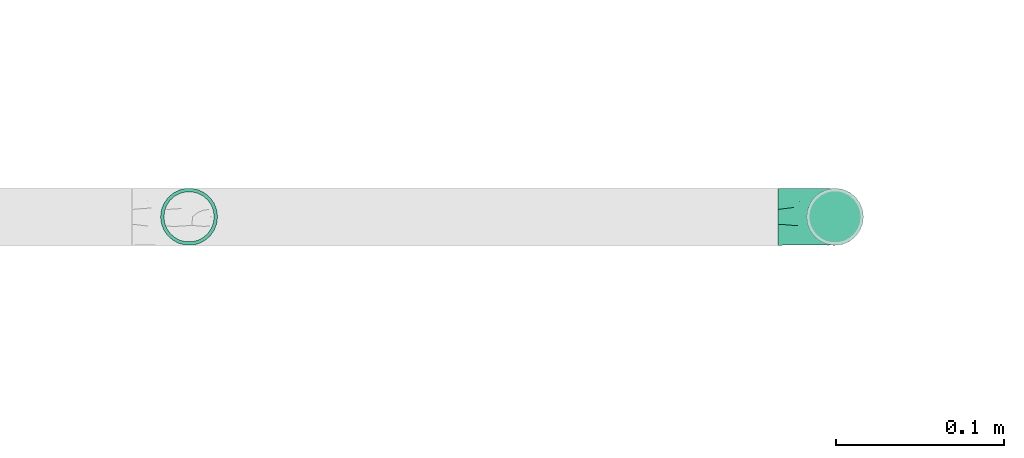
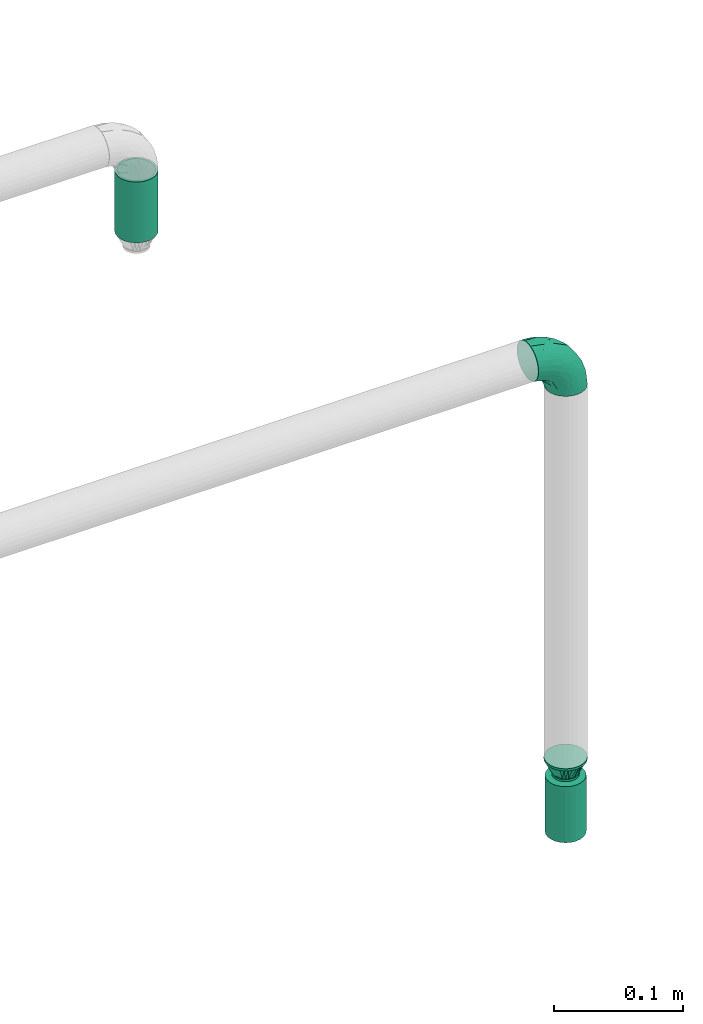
# One storey, part 27 of 45: 2 flow fittings, 1 flow segment, 1 flow terminal.
"""IFC2X3 building model written with IfcOpenShell, lengths in millimetres."""

from ifc_helpers import new_model, entity, si_unit, converted_unit, derived_unit, direction, frame, origin_with_axes, origin_2d_with_axis, place, context, subcontext, project, spatial, hollow_circle, extrude, open_shell, surface_model, source, transform, mapped, type_object, element, save


model = new_model("IFC2X3")

# Units and contexts
model_context = context("Model", 3, precision=0.01, world=frame((0.0, 4.29681676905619e-09, 0.0)), true_north=direction((4.01073788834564e-13, 1.0)))
plan_context = context("Plan", 3, precision=0.01, world=frame((0.0, 4.29681676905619e-09, 0.0)), true_north=direction((4.01073788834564e-13, 1.0)))
body_context = subcontext(model_context, "Body", "Model", "MODEL_VIEW")
ifc_project = project(units=[converted_unit("PLANEANGLEUNIT", "DEGREE", entity("IfcPositiveLengthMeasure", 0.0174532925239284), si_unit("PLANEANGLEUNIT", "RADIAN"), dimensions=[0, 0, 0, 0, 0, 0, 0]), si_unit("AREAUNIT", "SQUARE_METRE"), si_unit("LENGTHUNIT", "METRE", prefix="MILLI"), si_unit("MASSUNIT", "GRAM", prefix="KILO"), si_unit("POWERUNIT", "WATT"), si_unit("PRESSUREUNIT", "PASCAL", prefix="KILO"), si_unit("FORCEUNIT", "NEWTON", prefix="KILO"), si_unit("ELECTRICVOLTAGEUNIT", "VOLT"), si_unit("ELECTRICCURRENTUNIT", "AMPERE"), si_unit("THERMODYNAMICTEMPERATUREUNIT", "DEGREE_CELSIUS"), si_unit("TIMEUNIT", "SECOND"), si_unit("VOLUMEUNIT", "CUBIC_METRE"), derived_unit("LINEARVELOCITYUNIT", [(si_unit("LENGTHUNIT", "METRE"), 1), (si_unit("TIMEUNIT", "SECOND"), -1)]), derived_unit("VOLUMETRICFLOWRATEUNIT", [(si_unit("VOLUMEUNIT", "CUBIC_METRE"), 1), (si_unit("TIMEUNIT", "SECOND"), -1)]), derived_unit("THERMALTRANSMITTANCEUNIT", [(si_unit("POWERUNIT", "WATT"), 1), (si_unit("THERMODYNAMICTEMPERATUREUNIT", "KELVIN"), -1), (si_unit("AREAUNIT", "SQUARE_METRE"), -1)]), derived_unit("SOUNDPRESSUREUNIT", [(si_unit("PRESSUREUNIT", "PASCAL"), 1)])], contexts=[model_context, plan_context])

# Site, building, storey
site_placement = place(None, frame((0.0, -4.29681676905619e-09, 0.0), z_axis=(0.0, 0.0, 1.0), x_axis=(1.0, 0.0, 0.0)))
site = spatial("IfcSite", under=ifc_project, at=site_placement, CompositionType="ELEMENT")
building_placement = place(site_placement, frame((0.0, 4.29681676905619e-09, 0.0), z_axis=(0.0, 0.0, 1.0), x_axis=(1.0, 0.0, 0.0)))
building = spatial("IfcBuilding", under=site, at=building_placement, Name="mc-building", CompositionType="ELEMENT")
storey_placement = place(building_placement, frame((0.0, 0.0, 210200.0), z_axis=(0.0, 0.0, 1.0), x_axis=(1.0, 0.0, 0.0)))
storey = spatial("IfcBuildingStorey", under=building, at=storey_placement, Name="Nivå F - 0,7 m", CompositionType="ELEMENT", Elevation=210200.0)

# Flow fittings
pipe_fitting_type_1 = type_object("IfcPipeFittingType", Name="magi_pipe_fe_elbow_short_001", PredefinedType="BEND")
shared_shape_1 = source(origin_with_axes(), body_context, "Body", "SurfaceModel", [
    surface_model("IfcShellBasedSurfaceModel", [(-33.8, -11.9501, -11.9501), (-33.8, -14.63583, -8.45), (-33.8, -8.45, -14.63583), (-33.8, 0.0, -16.9), (-33.8, -4.37404, -16.32415), (-33.8, -16.32415, -4.37404), (-33.8, -16.9, 0.0), (-33.8, 11.9501, 11.9501), (-33.8, 14.63583, 8.45), (-33.8, 8.45, 14.63583), (-33.8, -11.9501, 11.9501), (-33.8, -8.45, 14.63583), (-33.8, -14.63583, 8.45), (-33.8, -16.32415, 4.37404), (-33.8, -4.37404, 16.32415), (-33.8, 0.0, 16.9), (-33.8, 16.9, 0.0), (-33.8, 16.32415, -4.37404), (-33.8, 16.32415, 4.37404), (-33.8, 4.37404, -16.32415), (-33.8, 8.45, -14.63583), (-33.8, 14.63583, -8.45), (-33.8, 11.9501, -11.9501), (-33.8, 4.37404, 16.32415), (-4.37404, 33.8, -16.32415), (16.9, 33.8, 0.0), (0.0, 33.8, -16.9), (-16.32415, 33.8, -4.37404), (-8.45, 33.8, -14.63583), (-14.63583, 33.8, -8.45), (-11.9501, 33.8, -11.9501), (16.32415, 33.8, 4.37404), (8.45, 33.8, -14.63583), (14.63583, 33.8, -8.45), (11.9501, 33.8, -11.9501), (4.37404, 33.8, -16.32415), (16.32415, 33.8, -4.37404), (-16.32415, 33.8, 4.37404), (-4.37404, 33.8, 16.32415), (-14.63583, 33.8, 8.45), (-8.45, 33.8, 14.63583), (-11.9501, 33.8, 11.9501), (14.63583, 33.8, 8.45), (8.45, 33.8, 14.63583), (11.9501, 33.8, 11.9501), (0.0, 33.8, 16.9), (4.37404, 33.8, 16.32415), (-16.9, 33.8, 0.0), (-24.79389, -13.12945, 9.48721), (-22.19287, -9.75018, 12.59315), (-24.09897, -14.97035, 0.0), (-14.93934, -10.76256, 8.5297), (-22.46095, -14.75051, 5.27077), (14.75051, 22.46094, 5.27077), (11.9251, 13.23888, 4.33236), (13.04069, 14.39795, 0.0), (7.71387, 13.68847, 11.55891), (9.75018, 22.19287, 12.59315), (4.10169, 13.0571, 14.04018), (-24.84007, -6.39063, 15.2048), (-25.81779, -2.23879, 16.61097), (-23.66549, 2.59054, 16.87119), (-26.50418, 14.06512, 11.08152), (-24.21253, 17.66365, 7.72657), (-29.58514, 15.86957, 7.00283), (-6.17382, -7.5455, 0.0), (-13.23888, -11.9251, 4.33236), (-14.39795, -13.04069, 0.0), (-17.81434, 18.87373, 11.97104), (-6.30846, 29.15138, 15.82987), (-2.31622, 25.28002, 16.85849), (-29.23923, 10.23435, 13.77053), (-1.45439, -2.85688, 7.61475), (-0.28326, 0.34872, 10.09509), (-5.74484, -4.04709, 10.4122), (-4.41137, 11.31918, 16.59407), (-8.39727, 3.10034, 15.7812), (-1.72649, 9.1306, 15.53089), (-17.39909, 24.75344, 7.64977), (-26.19233, 20.0512, 0.0), (-28.14518, 17.29657, 4.25857), (-26.05147, 6.6281, 15.96447), (-5.87354, 16.61944, 16.86968), (-12.51807, 12.51807, 16.48937), (-10.06312, 7.38516, 16.81295), (-3.01882, 3.01882, 13.81718), (-13.0571, -4.10169, 14.04018), (-16.82553, -0.15166, 16.38038), (10.76256, 14.93934, 8.5297), (13.12945, 24.79389, 9.48721), (6.39063, 24.84007, 15.2048), (2.23879, 25.81779, 16.61097), (-13.68847, -7.71387, 11.55891), (14.97035, 24.09897, 0.0), (-7.30894, 22.89991, 16.09489), (-10.67958, 26.17414, 14.008), (-12.78295, 18.26924, 15.06066), (-13.88562, 22.45231, 12.93244), (-18.04944, 15.16501, 14.04434), (-23.11658, 20.08178, 4.02986), (-21.84989, 21.84989, 0.0), (-18.55817, 25.48277, 3.93065), (-13.95142, 26.94732, 11.03289), (-18.57098, 7.23906, 16.59756), (-16.58335, 4.14122, 16.89279), (-17.96666, 11.46709, 15.63151), (-9.84453, 17.54304, 16.18938), (0.15166, 16.82553, 16.38038), (-23.27207, 11.47201, 14.23154), (3.84842, 5.86994, 10.70473), (-8.0212, -7.54413, 7.93275), (1.00345, -2.19508, 4.57414), (5.13203, 3.01004, 5.90201), (5.24161, 1.7543, 2.53265), (8.70457, 7.04947, 3.99182), (-20.0512, 26.19233, 0.0), (8.4852, 8.76699, 7.09296), (-4.55488, -6.72064, 4.90681), (2.05031, -2.05031, 0.0), (7.5455, 6.17382, 0.0), (-26.75399, 2.1369, -16.845), (-14.61995, 24.73803, -11.27736), (-28.45274, -13.45335, -9.81895), (-26.00469, 6.63555, -15.96645), (-23.06726, 20.04573, -4.26202), (-13.80647, -4.26506, -14.17873), (-14.67501, -0.21081, -16.07388), (-6.7902, -0.2828, -13.8478), (-24.53586, 11.08096, -14.13417), (-26.72048, 14.00837, -11.05776), (10.0967, 24.44989, -12.75976), (5.83237, 21.40218, -15.03047), (6.66249, 28.54238, -15.38093), (-20.38182, 15.48705, -12.74596), (12.53268, 21.23441, -9.15363), (12.54494, 15.67504, -5.54878), (9.7522, 12.89279, -8.66343), (-15.65186, 19.64213, -13.01327), (-12.03528, 20.66498, -14.67665), (-15.61907, 15.61906, -14.83879), (-25.56551, -15.26206, 0.0), (-24.65452, -15.12934, -5.50955), (13.45335, 28.45274, -9.81895), (15.12934, 24.65452, -5.50955), (-7.35442, -8.31014, -5.65563), (-15.67504, -12.54494, -5.54878), (-24.44989, -10.0967, -12.75976), (0.16522, 0.41303, -9.71728), (-5.70658, -5.33066, -8.89288), (-5.13869, -2.37198, -11.53565), (-21.23441, -12.53268, -9.15363), (0.71146, 7.93863, -14.09382), (0.21081, 14.67501, -16.07388), (3.49291, 14.42772, -14.76381), (-24.89911, -2.13088, -16.591), (-28.54238, -6.66249, -15.38093), (-18.44386, -7.71663, -13.26957), (2.13088, 24.89911, -16.591), (-28.64342, 17.44413, -2.89318), (1.70017, -1.28722, -5.09504), (-16.57067, 26.81947, -7.36596), (-17.69055, 27.4263, -3.76405), (-12.89279, -9.7522, -8.66343), (-5.96611, 5.96611, -15.95814), (-20.53709, 20.09345, -8.28985), (-2.1369, 26.75399, -16.845), (-6.89872, 24.58781, -16.02578), (-10.60739, 26.53157, -13.98044), (-21.40218, -5.83237, -15.03047), (2.93192, 5.89627, -11.55917), (6.89393, 12.61842, -11.82233), (5.58056, 5.95325, -8.79455), (-3.99512, 18.61798, -16.89635), (8.31014, 7.35442, -5.65563), (-9.1383, 9.86148, -16.89041), (-9.99983, 16.02119, -16.39699), (-16.68576, 9.78031, -16.34199), (-27.01915, 16.61158, -7.12979), (15.26206, 25.56551, 0.0), (-18.61798, 3.99512, -16.89635), (-19.37495, 27.82495, 0.0), (-12.61842, -6.89393, -11.82233), (-18.84705, 19.14018, -10.96545)], [open_shell([[[0, 1, 2]], [[3, 4, 2]], [[5, 6, 1]], [[7, 8, 9]], [[10, 11, 12]], [[13, 12, 11]], [[14, 15, 11]], [[16, 17, 18]], [[3, 6, 19]], [[20, 19, 17]], [[20, 17, 21]], [[22, 20, 21]], [[17, 19, 6]], [[2, 1, 6]], [[2, 6, 3]], [[6, 18, 17]], [[23, 18, 6]], [[8, 18, 23]], [[8, 23, 9]], [[13, 23, 6]], [[23, 13, 11]], [[11, 15, 23]], [[24, 25, 26]], [[27, 24, 28]], [[29, 27, 28]], [[29, 28, 30]], [[31, 25, 24]], [[32, 33, 34]], [[32, 35, 26]], [[33, 25, 36]], [[33, 32, 26]], [[25, 33, 26]], [[24, 27, 37]], [[31, 24, 37]], [[38, 37, 39]], [[40, 38, 39]], [[40, 39, 41]], [[31, 37, 38]], [[42, 43, 44]], [[43, 42, 31]], [[43, 45, 46]], [[43, 31, 38]], [[38, 45, 43]], [[37, 27, 47]], [[10, 48, 49]], [[13, 6, 50]], [[51, 48, 52]], [[53, 54, 55]], [[48, 10, 12]], [[13, 52, 12]], [[56, 57, 58]], [[49, 11, 10]], [[49, 59, 11]], [[15, 60, 61]], [[62, 63, 64]], [[65, 66, 67]], [[57, 44, 43]], [[62, 68, 63]], [[38, 69, 70]], [[9, 71, 7]], [[14, 60, 15]], [[72, 73, 74]], [[75, 76, 77]], [[7, 62, 8]], [[39, 37, 78]], [[79, 16, 80]], [[64, 18, 8]], [[15, 61, 23]], [[23, 81, 9]], [[82, 83, 84]], [[74, 85, 86]], [[59, 86, 87]], [[88, 89, 57]], [[90, 43, 46]], [[42, 53, 31]], [[46, 45, 91]], [[54, 53, 88]], [[42, 89, 53]], [[92, 86, 49]], [[89, 42, 44]], [[11, 59, 14]], [[53, 55, 93]], [[93, 31, 53]], [[66, 52, 67]], [[94, 82, 70]], [[95, 96, 94]], [[97, 98, 96]], [[79, 99, 100]], [[40, 41, 95]], [[101, 100, 99]], [[68, 78, 63]], [[38, 40, 69]], [[16, 18, 80]], [[95, 94, 69]], [[78, 101, 99]], [[41, 102, 95]], [[70, 45, 38]], [[97, 95, 102]], [[13, 50, 52]], [[90, 57, 43]], [[57, 90, 58]], [[81, 23, 61]], [[103, 104, 84]], [[105, 81, 103]], [[41, 39, 102]], [[106, 96, 83]], [[94, 106, 82]], [[91, 70, 107]], [[71, 62, 7]], [[62, 108, 98]], [[86, 59, 49]], [[67, 52, 50]], [[60, 59, 87]], [[92, 49, 51]], [[86, 85, 76]], [[91, 90, 46]], [[25, 31, 93]], [[107, 77, 58]], [[107, 58, 90]], [[58, 85, 109]], [[110, 74, 92]], [[72, 74, 110]], [[66, 51, 52]], [[72, 111, 112]], [[113, 114, 112]], [[56, 88, 57]], [[52, 48, 12]], [[49, 48, 51]], [[57, 89, 44]], [[53, 89, 88]], [[103, 81, 61]], [[71, 81, 108]], [[18, 64, 80]], [[63, 78, 99]], [[47, 115, 101]], [[101, 115, 100]], [[39, 78, 102]], [[68, 102, 78]], [[97, 96, 95]], [[105, 98, 108]], [[103, 84, 83]], [[107, 70, 82]], [[76, 84, 87]], [[82, 84, 75]], [[70, 91, 45]], [[90, 91, 107]], [[59, 60, 14]], [[61, 60, 87]], [[73, 85, 74]], [[109, 112, 116]], [[103, 61, 104]], [[105, 103, 83]], [[96, 105, 83]], [[81, 105, 108]], [[96, 98, 105]], [[62, 98, 68]], [[61, 87, 104]], [[87, 84, 104]], [[86, 76, 87]], [[77, 76, 85]], [[58, 77, 85]], [[75, 77, 107]], [[82, 75, 107]], [[76, 75, 84]], [[81, 71, 9]], [[62, 71, 108]], [[95, 69, 40]], [[70, 69, 94]], [[62, 64, 8]], [[80, 63, 99]], [[63, 80, 64]], [[80, 99, 79]], [[66, 65, 117]], [[110, 66, 117]], [[112, 114, 116]], [[118, 117, 65]], [[110, 92, 51]], [[112, 111, 113]], [[119, 55, 54]], [[74, 86, 92]], [[58, 109, 56]], [[116, 56, 109]], [[66, 110, 51]], [[72, 110, 117]], [[111, 72, 117]], [[73, 112, 109]], [[117, 118, 111]], [[113, 111, 118]], [[118, 119, 113]], [[114, 119, 54]], [[119, 114, 113]], [[116, 54, 88]], [[54, 116, 114]], [[116, 88, 56]], [[112, 73, 72]], [[85, 73, 109]], [[78, 37, 101]], [[47, 101, 37]], [[102, 68, 97]], [[97, 68, 98]], [[82, 106, 83]], [[94, 96, 106]], [[19, 120, 3]], [[29, 30, 121]], [[0, 122, 1]], [[20, 123, 19]], [[100, 124, 79]], [[125, 126, 127]], [[128, 22, 129]], [[130, 131, 132]], [[128, 129, 133]], [[134, 135, 136]], [[137, 138, 139]], [[128, 20, 22]], [[67, 140, 141]], [[134, 142, 143]], [[141, 5, 1]], [[144, 65, 145]], [[146, 0, 2]], [[147, 148, 149]], [[145, 141, 150]], [[151, 152, 153]], [[154, 4, 3]], [[2, 155, 146]], [[150, 146, 156]], [[155, 2, 4]], [[143, 135, 134]], [[35, 157, 26]], [[16, 79, 158]], [[148, 159, 144]], [[160, 161, 27]], [[145, 162, 144]], [[163, 152, 151]], [[27, 29, 160]], [[121, 164, 160]], [[32, 34, 130]], [[26, 165, 24]], [[24, 165, 166]], [[142, 34, 33]], [[30, 28, 167]], [[124, 161, 164]], [[157, 35, 132]], [[155, 154, 168]], [[123, 20, 128]], [[169, 170, 171]], [[172, 157, 152]], [[24, 166, 28]], [[132, 35, 32]], [[142, 130, 34]], [[168, 154, 126]], [[136, 135, 173]], [[133, 137, 139]], [[22, 21, 129]], [[170, 131, 130]], [[33, 36, 143]], [[172, 174, 175]], [[176, 123, 128]], [[158, 177, 17]], [[135, 55, 119]], [[167, 28, 166]], [[175, 166, 172]], [[137, 167, 138]], [[122, 141, 1]], [[140, 6, 5]], [[36, 25, 178]], [[170, 130, 134]], [[152, 157, 131]], [[165, 157, 172]], [[153, 170, 151]], [[152, 163, 174]], [[168, 125, 156]], [[122, 146, 150]], [[120, 154, 3]], [[179, 174, 126]], [[179, 126, 154]], [[126, 163, 127]], [[162, 145, 150]], [[140, 5, 141]], [[36, 178, 143]], [[55, 143, 178]], [[177, 129, 21]], [[128, 133, 139]], [[176, 128, 139]], [[120, 123, 179]], [[121, 160, 29]], [[161, 100, 180]], [[166, 175, 138]], [[121, 30, 167]], [[161, 47, 27]], [[79, 124, 158]], [[124, 164, 177]], [[161, 124, 100]], [[136, 171, 170]], [[127, 163, 151]], [[147, 171, 159]], [[148, 144, 162]], [[127, 151, 169]], [[127, 181, 125]], [[129, 177, 164]], [[21, 17, 177]], [[159, 65, 144]], [[67, 141, 145]], [[143, 55, 135]], [[135, 119, 173]], [[123, 120, 19]], [[154, 120, 179]], [[157, 165, 26]], [[166, 165, 172]], [[172, 152, 174]], [[176, 139, 175]], [[126, 174, 163]], [[176, 174, 179]], [[174, 176, 175]], [[123, 176, 179]], [[150, 181, 162]], [[127, 149, 181]], [[181, 148, 162]], [[159, 148, 147]], [[171, 136, 173]], [[170, 134, 136]], [[159, 171, 173]], [[171, 147, 169]], [[169, 147, 149]], [[151, 170, 169]], [[164, 182, 129]], [[182, 121, 137]], [[181, 149, 148]], [[169, 149, 127]], [[182, 137, 133]], [[167, 137, 121]], [[166, 138, 167]], [[175, 139, 138]], [[129, 182, 133]], [[121, 182, 164]], [[161, 160, 164]], [[47, 161, 180]], [[177, 158, 124]], [[16, 158, 17]], [[130, 132, 32]], [[157, 132, 131]], [[143, 142, 33]], [[130, 142, 134]], [[154, 155, 4]], [[146, 155, 168]], [[146, 122, 0]], [[141, 122, 150]], [[152, 131, 153]], [[159, 119, 118]], [[67, 145, 65]], [[170, 153, 131]], [[119, 159, 173]], [[159, 118, 65]], [[156, 125, 181]], [[126, 125, 168]], [[150, 156, 181]], [[168, 156, 146]]])]),
])
flow_fitting_1_placement = place(storey_placement, frame((333602.59811, 466128.25463, 2980.04545999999), z_axis=(0.0, -1.0, 0.0), x_axis=(0.0, 0.0, 1.0)))
element("IfcFlowFitting", 1, at=flow_fitting_1_placement, inside=storey, type_object=pipe_fitting_type_1, Name="magi_pipe_fe_elbow_short_001", context=body_context, shape_type="MappedRepresentation", body=[
    mapped(shared_shape_1, transform((0.0, 0.0, 0.0), scale=1.0)),
])
pipe_fitting_type_2 = type_object("IfcPipeFittingType", Name="magi_pipe_fe_reducer_centric_short_001", PredefinedType="TRANSITION")
shared_shape_2 = source(origin_with_axes(), body_context, "Body", "SurfaceModel", [
    surface_model("IfcShellBasedSurfaceModel", [(-2.0, -7.56604, -7.56604), (-2.0, -10.33541, -2.76936), (-2.0, -5.35, -9.26647), (-2.0, 5.35, -9.26647), (-2.0, 10.33541, -2.76936), (-2.0, 7.56604, -7.56604), (12.4, 11.9501, 11.9501), (12.4, 0.0, 16.9), (12.4, 11.9501, -11.9501), (12.4, 16.9, 0.0), (0.0, -10.7, 0.0), (0.0, -5.35, 9.26647), (0.0, -5.35, -9.26647), (0.0, 10.7, 0.0), (12.4, 15.66253, -2.98753), (12.4, 8.96258, -13.18758), (0.0, 6.6875, -6.94985), (12.4, -15.66253, -2.98753), (12.4, -16.9, 0.0), (12.4, 5.97505, -14.42505), (0.0, 5.35, -9.26647), (12.4, 14.42505, -5.97505), (0.0, 8.025, -4.63324), (0.0, 9.3625, -2.31662), (0.0, -9.3625, -2.31662), (0.0, -8.025, -4.63324), (12.4, -14.42505, -5.97505), (12.4, 13.18758, -8.96258), (12.4, -13.18758, -8.96258), (12.4, -11.9501, -11.9501), (0.0, -6.6875, -6.94985), (12.4, -8.96258, -13.18758), (12.4, -5.97505, -14.42505), (12.4, -15.66253, 2.98753), (12.4, -8.96258, 13.18758), (0.0, -6.6875, 6.94985), (12.4, -11.9501, 11.9501), (12.4, 15.66253, 2.98753), (12.4, -5.97505, 14.42505), (12.4, -14.42505, 5.97505), (0.0, -8.025, 4.63324), (0.0, -9.3625, 2.31662), (0.0, 9.3625, 2.31662), (0.0, 8.025, 4.63324), (12.4, 14.42505, 5.97505), (12.4, -13.18758, 8.96258), (12.4, 13.18758, 8.96258), (0.0, 6.6875, 6.94985), (12.4, 8.96258, 13.18758), (0.0, 5.35, 9.26647), (12.4, 5.97505, 14.42505), (14.4, 4.37404, -16.32415), (14.4, 8.45, -14.63583), (14.4, 11.9501, -11.9501), (14.4, -8.45, -14.63583), (14.4, 16.32415, -4.37404), (14.4, 16.32415, 4.37404), (14.4, 14.63583, -8.45), (14.4, 0.0, -16.9), (14.4, -4.37404, -16.32415), (14.4, -11.9501, -11.9501), (14.4, -16.32415, -4.37404), (14.4, -14.63583, -8.45), (14.4, -16.32415, 4.37404), (14.4, 16.9, 0.0), (14.4, 14.63583, 8.45), (14.4, 11.9501, 11.9501), (14.4, 4.37404, 16.32415), (14.4, 8.45, 14.63583), (14.4, 0.0, 16.9), (14.4, -14.63583, 8.45), (14.4, -16.9, 0.0), (14.4, -8.45, 14.63583), (14.4, -11.9501, 11.9501), (14.4, -4.37404, 16.32415), (12.4, 4.37404, 16.32415), (12.4, -14.63583, 8.45), (12.4, 16.32415, 4.37404), (12.4, 8.45, 14.63583), (12.4, 14.63583, 8.45), (12.4, -8.45, 14.63583), (12.4, -4.37404, 16.32415), (12.4, -16.32415, 4.37404), (12.4, -16.32415, -4.37404), (12.4, -8.45, -14.63583), (12.4, 16.32415, -4.37404), (12.4, 14.63583, -8.45), (12.4, 8.45, -14.63583), (12.4, 4.37404, -16.32415), (12.4, 0.0, -16.9), (12.4, -14.63583, -8.45), (12.4, -4.37404, -16.32415), (-2.0, 2.76936, 10.33541), (-2.0, 0.0, 10.7), (-2.0, 5.35, 9.26647), (-2.0, 7.56604, 7.56604), (-2.0, 9.26647, 5.35), (-2.0, 10.33541, 2.76936), (-2.0, -10.33541, 2.76936), (-2.0, -2.76936, 10.33541), (-2.0, -7.56604, 7.56604), (-2.0, -5.35, 9.26647), (-2.0, -9.26647, 5.35), (-2.0, -10.7, 0.0), (-2.0, 9.26647, -5.35), (-2.0, 2.76936, -10.33541), (-2.0, -9.26647, -5.35), (-2.0, 0.0, -10.7), (-2.0, -2.76936, -10.33541), (-2.0, 10.7, 0.0), (0.0, 0.0, -10.7), (0.0, 2.76936, -10.33541), (0.0, 10.33541, -2.76936), (0.0, 7.56604, -7.56604), (0.0, -10.33541, -2.76936), (0.0, 9.26647, -5.35), (0.0, 0.0, 10.7), (0.0, -2.76936, -10.33541), (0.0, -7.56604, -7.56604), (0.0, -9.26647, -5.35), (0.0, 10.33541, 2.76936), (0.0, 9.26647, 5.35), (0.0, 7.56604, 7.56604), (0.0, 2.76936, 10.33541), (0.0, -7.56604, 7.56604), (0.0, -10.33541, 2.76936), (0.0, -9.26647, 5.35), (0.0, -2.76936, 10.33541), (0.0, 2.675, -9.26647), (0.0, -2.675, -9.26647), (12.4, 2.98753, -15.66253), (0.0, 0.0, -9.26647), (12.4, -2.98753, -15.66253), (0.0, -2.675, 9.26647), (0.0, 2.675, 9.26647), (12.4, -2.98753, 15.66253), (0.0, 0.0, 9.26647), (12.4, 2.98753, 15.66253)], [open_shell([[[0, 1, 2]], [[3, 4, 5]], [[6, 7, 8]], [[8, 9, 6]], [[10, 11, 12]], [[13, 9, 14]], [[15, 16, 8]], [[17, 18, 10]], [[15, 19, 20]], [[21, 22, 23]], [[24, 25, 26]], [[22, 21, 27]], [[28, 26, 25]], [[29, 30, 31]], [[12, 32, 31]], [[10, 18, 33]], [[34, 35, 36]], [[37, 9, 13]], [[34, 38, 11]], [[39, 40, 41]], [[42, 43, 44]], [[40, 39, 45]], [[46, 44, 43]], [[6, 47, 48]], [[49, 50, 48]], [[51, 52, 53]], [[54, 51, 53]], [[53, 55, 56]], [[55, 53, 57]], [[53, 56, 54]], [[58, 54, 59]], [[58, 51, 54]], [[60, 61, 62]], [[61, 60, 54]], [[54, 63, 61]], [[56, 55, 64]], [[56, 65, 66]], [[56, 66, 67]], [[67, 63, 54]], [[67, 66, 68]], [[63, 67, 69]], [[69, 70, 63]], [[71, 61, 63]], [[70, 72, 73]], [[70, 69, 72]], [[72, 69, 74]], [[54, 56, 67]], [[75, 76, 7]], [[77, 75, 78]], [[6, 79, 77]], [[6, 77, 78]], [[76, 75, 77]], [[80, 76, 36]], [[80, 81, 7]], [[7, 76, 80]], [[82, 76, 77]], [[82, 83, 18]], [[82, 77, 84]], [[77, 85, 8]], [[8, 85, 86]], [[8, 87, 88]], [[84, 77, 8]], [[88, 89, 8]], [[83, 29, 90]], [[29, 83, 84]], [[84, 89, 91]], [[83, 82, 84]], [[8, 89, 84]], [[85, 77, 9]], [[83, 61, 18]], [[90, 62, 83]], [[54, 29, 84]], [[90, 29, 60]], [[59, 84, 91]], [[83, 62, 61]], [[61, 71, 18]], [[59, 54, 84]], [[60, 29, 54]], [[60, 62, 90]], [[58, 59, 91]], [[91, 89, 58]], [[88, 51, 89]], [[87, 52, 88]], [[57, 8, 86]], [[87, 8, 53]], [[55, 86, 85]], [[87, 53, 52]], [[52, 51, 88]], [[64, 55, 85]], [[57, 86, 55]], [[57, 53, 8]], [[9, 64, 85]], [[89, 51, 58]], [[77, 56, 9]], [[79, 65, 77]], [[68, 6, 78]], [[79, 6, 66]], [[67, 78, 75]], [[77, 65, 56]], [[56, 64, 9]], [[67, 68, 78]], [[66, 6, 68]], [[66, 65, 79]], [[69, 67, 75]], [[75, 7, 69]], [[81, 74, 7]], [[80, 72, 81]], [[70, 36, 76]], [[80, 36, 73]], [[63, 76, 82]], [[80, 73, 72]], [[72, 74, 81]], [[71, 63, 82]], [[70, 76, 63]], [[70, 73, 36]], [[18, 71, 82]], [[7, 74, 69]], [[92, 1, 93]], [[94, 1, 92]], [[95, 96, 97]], [[95, 97, 94]], [[98, 93, 1]], [[99, 100, 101]], [[99, 93, 100]], [[100, 98, 102]], [[93, 98, 100]], [[98, 1, 103]], [[94, 97, 1]], [[1, 97, 4]], [[5, 4, 104]], [[4, 3, 1]], [[105, 1, 3]], [[1, 0, 106]], [[2, 107, 108]], [[2, 1, 105]], [[105, 107, 2]], [[4, 97, 109]], [[20, 110, 111]], [[112, 20, 113]], [[114, 20, 112]], [[112, 113, 115]], [[116, 114, 112]], [[110, 12, 117]], [[110, 20, 12]], [[118, 114, 119]], [[114, 118, 12]], [[20, 114, 12]], [[112, 13, 120]], [[120, 121, 122]], [[120, 122, 123]], [[116, 112, 123]], [[123, 122, 49]], [[116, 124, 114]], [[125, 124, 126]], [[10, 114, 125]], [[124, 127, 11]], [[125, 114, 124]], [[127, 124, 116]], [[123, 112, 120]], [[1, 114, 103]], [[106, 119, 1]], [[12, 0, 2]], [[106, 0, 118]], [[117, 2, 108]], [[1, 119, 114]], [[114, 10, 103]], [[117, 12, 2]], [[118, 0, 12]], [[118, 119, 106]], [[110, 117, 108]], [[108, 107, 110]], [[105, 111, 107]], [[3, 20, 105]], [[115, 5, 104]], [[3, 5, 113]], [[112, 104, 4]], [[3, 113, 20]], [[20, 111, 105]], [[13, 112, 4]], [[115, 104, 112]], [[115, 113, 5]], [[109, 13, 4]], [[107, 111, 110]], [[97, 120, 109]], [[96, 121, 97]], [[49, 95, 94]], [[96, 95, 122]], [[123, 94, 92]], [[97, 121, 120]], [[120, 13, 109]], [[123, 49, 94]], [[122, 95, 49]], [[122, 121, 96]], [[116, 123, 92]], [[92, 93, 116]], [[99, 127, 93]], [[101, 11, 99]], [[126, 100, 102]], [[101, 100, 124]], [[125, 102, 98]], [[101, 124, 11]], [[11, 127, 99]], [[10, 125, 98]], [[126, 102, 125]], [[126, 124, 100]], [[103, 10, 98]], [[93, 127, 116]], [[18, 7, 36]], [[18, 29, 8]], [[89, 8, 29]], [[18, 8, 7]], [[13, 11, 49]], [[13, 20, 12]], [[13, 12, 11]], [[24, 26, 17]], [[10, 24, 17]], [[16, 15, 20]], [[30, 12, 31]], [[23, 14, 21]], [[19, 128, 20]], [[27, 8, 16]], [[32, 12, 129]], [[30, 28, 25]], [[130, 131, 128]], [[129, 132, 32]], [[16, 22, 27]], [[13, 14, 23]], [[128, 19, 130]], [[130, 89, 131]], [[131, 132, 129]], [[89, 132, 131]], [[28, 30, 29]], [[42, 44, 37]], [[13, 42, 37]], [[35, 34, 11]], [[47, 49, 48]], [[41, 33, 39]], [[38, 133, 11]], [[45, 36, 35]], [[50, 49, 134]], [[47, 46, 43]], [[135, 136, 133]], [[134, 137, 50]], [[35, 40, 45]], [[10, 33, 41]], [[133, 38, 135]], [[135, 7, 136]], [[136, 137, 134]], [[7, 137, 136]], [[46, 47, 6]]])]),
])
flow_fitting_2_placement = place(storey_placement, frame((333602.59811, 466128.25463, 2580.04545999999), z_axis=(0.0, -1.0, 0.0), x_axis=(0.0, 0.0, 1.0)))
element("IfcFlowFitting", 2, at=flow_fitting_2_placement, inside=storey, type_object=pipe_fitting_type_2, Name="magi_pipe_fe_reducer_centric_short_001", context=body_context, shape_type="MappedRepresentation", body=[
    mapped(shared_shape_2, transform((0.0, 0.0, 0.0), scale=1.0)),
])

# Flow segment
pipe_segment_type = type_object("IfcPipeSegmentType", Name="Stålrør normaltykke", PredefinedType="RIGIDSEGMENT")
shared_shape_3 = source(origin_with_axes(), body_context, "Body", "SweptSolid", [
    extrude(hollow_circle(Radius=16.9, WallThickness=2.0, at=origin_2d_with_axis()), frame((0.0, 0.0, 0.0), z_axis=(1.0, 0.0, 0.0), x_axis=(0.0, 1.0, 0.0)), (0.0, 0.0, 1.0), 57.4),
])
flow_segment_placement = place(storey_placement, frame((333219.17326, 466128.25463, 3282.8898), z_axis=(0.0, -1.0, 0.0), x_axis=(0.0, 0.0, -1.0)))
element("IfcFlowSegment", 3, at=flow_segment_placement, inside=storey, type_object=pipe_segment_type, Name="Stålrør normaltykke", context=body_context, shape_type="MappedRepresentation", body=[
    mapped(shared_shape_3, transform((0.0, 0.0, 0.0), scale=1.0)),
])

# Flow terminal
fire_suppression_terminal_type = type_object("IfcFireSuppressionTerminalType", Name="SP-15-K80-68DGR-STD", PredefinedType="NOTDEFINED")
shared_shape_4 = source(origin_with_axes(), body_context, "Body", "SurfaceModel", [
    surface_model("IfcShellBasedSurfaceModel", [(4.1411, -15.45481, 53.0), (8.0, -13.85641, 53.0), (11.31371, -11.31371, 53.0), (-8.0, -13.85641, 53.0), (15.45481, -4.1411, 53.0), (16.0, 0.0, 53.0), (13.85641, -8.0, 53.0), (0.0, -16.0, 53.0), (-4.1411, -15.45481, 53.0), (-13.85641, -8.0, 53.0), (-11.31371, -11.31371, 53.0), (-15.45481, -4.1411, 53.0), (15.45481, 4.1411, 53.0), (13.85641, 8.0, 53.0), (11.31371, 11.31371, 53.0), (-4.1411, 15.45481, 53.0), (8.0, 13.85641, 53.0), (4.1411, 15.45481, 53.0), (0.0, 16.0, 53.0), (-13.85641, 8.0, 53.0), (-15.45481, 4.1411, 53.0), (-16.0, 0.0, 53.0), (-11.31371, 11.31371, 53.0), (-8.0, 13.85641, 53.0), (0.0, 16.0, 0.0), (4.1411, 15.45481, 0.0), (8.0, 13.85641, 0.0), (-4.1411, 15.45481, 0.0), (11.31371, 11.31371, 0.0), (13.85641, 8.0, 0.0), (15.45481, 4.1411, 0.0), (-15.45481, -4.1411, 0.0), (-11.31371, 11.31371, 0.0), (-8.0, 13.85641, 0.0), (-13.85641, 8.0, 0.0), (-15.45481, 4.1411, 0.0), (-16.0, 0.0, 0.0), (4.1411, -15.45481, 0.0), (16.0, 0.0, 0.0), (15.45481, -4.1411, 0.0), (13.85641, -8.0, 0.0), (11.31371, -11.31371, 0.0), (8.0, -13.85641, 0.0), (-8.0, -13.85641, 0.0), (-13.85641, -8.0, 0.0), (-11.31371, -11.31371, 0.0), (0.0, -16.0, 0.0), (-4.1411, -15.45481, 0.0)], [open_shell([[[0, 1, 2]], [[3, 0, 2]], [[4, 5, 2]], [[4, 2, 6]], [[3, 2, 5]], [[7, 3, 8]], [[7, 0, 3]], [[3, 9, 10]], [[9, 3, 11]], [[5, 11, 3]], [[5, 12, 11]], [[12, 13, 14]], [[15, 12, 14]], [[16, 17, 18]], [[14, 16, 15]], [[18, 15, 16]], [[11, 19, 20]], [[21, 11, 20]], [[22, 15, 23]], [[15, 22, 19]], [[19, 11, 15]], [[11, 12, 15]], [[24, 25, 26]], [[27, 24, 26]], [[28, 29, 30]], [[27, 26, 28]], [[27, 28, 31]], [[27, 32, 33]], [[32, 27, 34]], [[34, 31, 35]], [[31, 34, 27]], [[35, 31, 36]], [[28, 30, 31]], [[37, 38, 39]], [[37, 39, 40]], [[41, 42, 37]], [[41, 37, 40]], [[38, 37, 43]], [[44, 43, 45]], [[43, 44, 31]], [[43, 46, 47]], [[43, 31, 38]], [[37, 46, 43]], [[38, 31, 30]], [[11, 31, 44]], [[45, 9, 44]], [[3, 43, 47]], [[45, 43, 10]], [[8, 47, 46]], [[31, 21, 36]], [[31, 11, 21]], [[44, 9, 11]], [[45, 10, 9]], [[3, 10, 43]], [[47, 8, 3]], [[46, 7, 8]], [[0, 37, 42]], [[41, 1, 42]], [[6, 40, 39]], [[41, 40, 2]], [[4, 39, 38]], [[37, 0, 7]], [[42, 1, 0]], [[41, 2, 1]], [[40, 6, 2]], [[4, 6, 39]], [[38, 5, 4]], [[37, 7, 46]], [[12, 38, 30]], [[13, 30, 29]], [[16, 26, 25]], [[17, 25, 24]], [[30, 13, 12]], [[12, 5, 38]], [[28, 14, 13]], [[28, 26, 14]], [[14, 26, 16]], [[25, 17, 16]], [[28, 13, 29]], [[24, 18, 17]], [[15, 27, 33]], [[32, 23, 33]], [[19, 34, 35]], [[32, 34, 22]], [[20, 35, 36]], [[27, 15, 18]], [[33, 23, 15]], [[32, 22, 23]], [[34, 19, 22]], [[20, 19, 35]], [[36, 21, 20]], [[27, 18, 24]]])]),
])
flow_terminal_placement = place(storey_placement, frame((333602.59811, 466128.25463, 2576.99746000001), z_axis=(0.0, 0.0, -1.0), x_axis=(-1.0, 0.0, 0.0)))
element("IfcFlowTerminal", 4, at=flow_terminal_placement, inside=storey, type_object=fire_suppression_terminal_type, Name="SP-15-K80-68DGR-STD", context=body_context, shape_type="MappedRepresentation", body=[
    mapped(shared_shape_4, transform((0.0, 0.0, 0.0), scale=1.0)),
])

save(model, "model.ifc")
